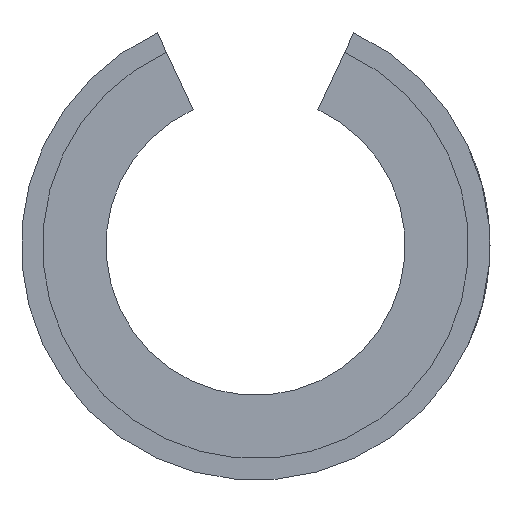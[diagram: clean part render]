
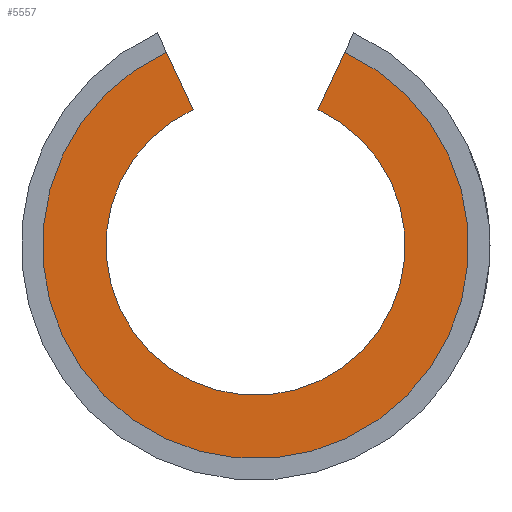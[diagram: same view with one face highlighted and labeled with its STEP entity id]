
A CAD part, left-side view. The second image highlights one B-rep face of the part: STEP entity #5557.
In plain terms, the highlighted planar face has unit normal (-1, 0, 0).
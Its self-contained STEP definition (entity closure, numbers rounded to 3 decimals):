
#126=PLANE('',#5992);
#413=LINE('',#8845,#886);
#414=LINE('',#8849,#887);
#886=VECTOR('',#6617,1000.);
#887=VECTOR('',#6620,1000.);
#1317=CIRCLE('',#5968,15.);
#1329=CIRCLE('',#5993,21.359);
#1712=ORIENTED_EDGE('',*,*,#3383,.T.);
#1713=ORIENTED_EDGE('',*,*,#3384,.F.);
#1714=ORIENTED_EDGE('',*,*,#3385,.T.);
#1715=ORIENTED_EDGE('',*,*,#3346,.T.);
#3346=EDGE_CURVE('',#4189,#4188,#1317,.F.);
#3383=EDGE_CURVE('',#4188,#4212,#413,.T.);
#3384=EDGE_CURVE('',#4213,#4212,#1329,.T.);
#3385=EDGE_CURVE('',#4213,#4189,#414,.T.);
#4188=VERTEX_POINT('',#8771);
#4189=VERTEX_POINT('',#8773);
#4212=VERTEX_POINT('',#8846);
#4213=VERTEX_POINT('',#8848);
#4756=EDGE_LOOP('',(#1712,#1713,#1714,#1715));
#5147=FACE_BOUND('',#4756,.T.);
#5557=ADVANCED_FACE('',(#5147),#126,.T.);
#5968=AXIS2_PLACEMENT_3D('',#8772,#6542,#6543);
#5992=AXIS2_PLACEMENT_3D('',#8844,#6615,#6616);
#5993=AXIS2_PLACEMENT_3D('',#8847,#6618,#6619);
#6542=DIRECTION('',(-1.,0.,0.));
#6543=DIRECTION('',(0.,0.,1.));
#6615=DIRECTION('',(-1.,0.,0.));
#6616=DIRECTION('',(0.,0.,-1.));
#6617=DIRECTION('',(0.,0.423,0.906));
#6618=DIRECTION('',(1.,0.,0.));
#6619=DIRECTION('',(0.,0.,-1.));
#6620=DIRECTION('',(0.,0.423,-0.906));
#8771=CARTESIAN_POINT('',(-32.,6.25,13.636));
#8772=CARTESIAN_POINT('',(-32.,0.,0.));
#8773=CARTESIAN_POINT('',(-32.,-6.25,13.636));
#8844=CARTESIAN_POINT('',(-32.,0.,0.));
#8845=CARTESIAN_POINT('',(-32.,6.25,13.636));
#8846=CARTESIAN_POINT('',(-32.,8.937,19.399));
#8847=CARTESIAN_POINT('',(-32.,0.,0.));
#8848=CARTESIAN_POINT('',(-32.,-8.937,19.399));
#8849=CARTESIAN_POINT('',(-32.,-6.25,13.636));
